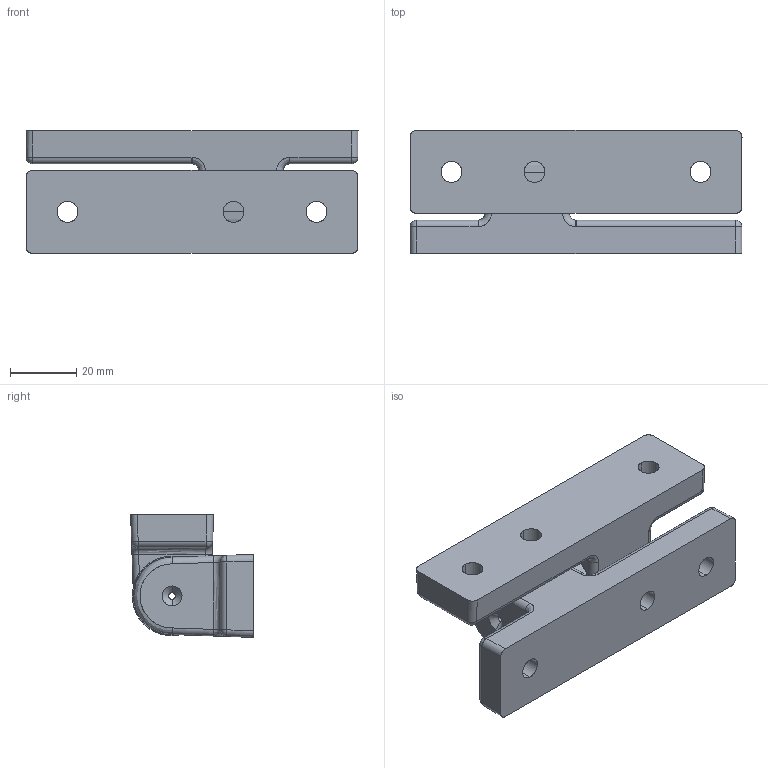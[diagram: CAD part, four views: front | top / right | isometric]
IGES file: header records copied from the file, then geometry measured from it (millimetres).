
Start section: SolidWorks IGES file using analytic representation for surfaces
Bounding box: 100 x 37 x 37 mm (x, y, z)
Surface area: 20712.5 mm2 (no closed solid volume)
Topology: 0 solids, 0 shells, 130 faces, 1492 edges, 1492 vertices
Faces by surface type: revolution 90, bspline 40
